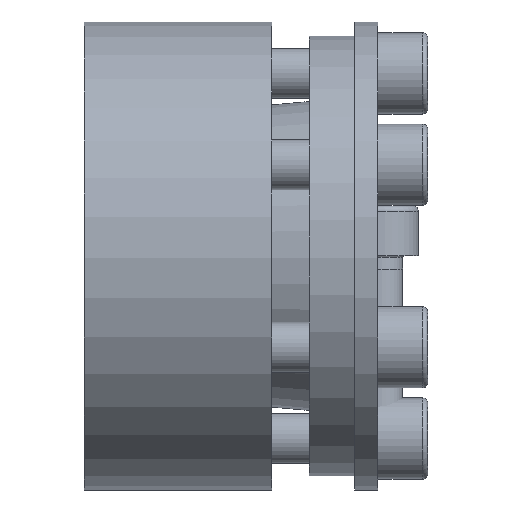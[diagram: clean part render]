
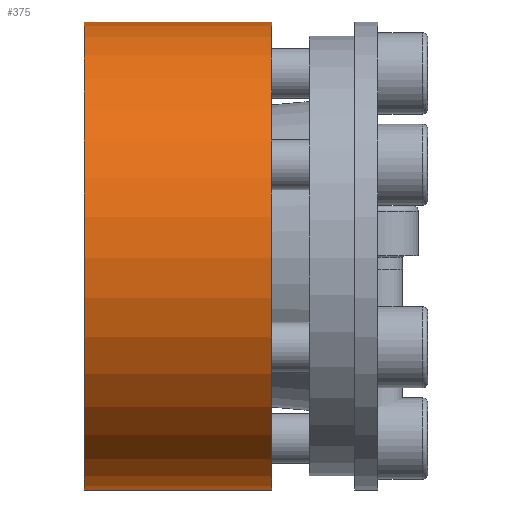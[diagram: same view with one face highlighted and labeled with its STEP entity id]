
A CAD part, left-side view. The second image highlights one B-rep face of the part: STEP entity #375.
In plain terms, the highlighted cylindrical face has radius 37.5 mm (diameter 75 mm), a partial arc.
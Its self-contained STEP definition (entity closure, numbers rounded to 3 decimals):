
#375 = ADVANCED_FACE( '', ( #599 ), #600, .T. );
#599 = FACE_OUTER_BOUND( '', #747, .T. );
#600 = CYLINDRICAL_SURFACE( '', #748, 37.5 );
#747 = EDGE_LOOP( '', ( #977, #978, #979, #980 ) );
#748 = AXIS2_PLACEMENT_3D( '', #981, #982, #983 );
#977 = ORIENTED_EDGE( '', *, *, #1254, .F. );
#978 = ORIENTED_EDGE( '', *, *, #1261, .T. );
#979 = ORIENTED_EDGE( '', *, *, #1266, .T. );
#980 = ORIENTED_EDGE( '', *, *, #1234, .T. );
#981 = CARTESIAN_POINT( '', ( 0., -60., 0. ) );
#982 = DIRECTION( '', ( 0., 1., 0. ) );
#983 = DIRECTION( '', ( 0., 0., -1. ) );
#1234 = EDGE_CURVE( '', #1371, #1369, #1372, .T. );
#1254 = EDGE_CURVE( '', #1406, #1369, #1408, .T. );
#1261 = EDGE_CURVE( '', #1406, #1419, #1421, .F. );
#1266 = EDGE_CURVE( '', #1419, #1371, #1429, .T. );
#1369 = VERTEX_POINT( '', #1491 );
#1371 = VERTEX_POINT( '', #1494 );
#1372 = LINE( '', #1495, #1496 );
#1406 = VERTEX_POINT( '', #1536 );
#1408 = CIRCLE( '', #1539, 37.5 );
#1419 = VERTEX_POINT( '', #1554 );
#1421 = LINE( '', #1557, #1558 );
#1429 = CIRCLE( '', #1569, 37.5 );
#1491 = CARTESIAN_POINT( '', ( 19.396, 17., 32.094 ) );
#1494 = CARTESIAN_POINT( '', ( 19.396, 47., 32.094 ) );
#1495 = CARTESIAN_POINT( '', ( 19.396, -60., 32.094 ) );
#1496 = VECTOR( '', #1611, 1000. );
#1536 = CARTESIAN_POINT( '', ( 18.097, 17., 32.844 ) );
#1539 = AXIS2_PLACEMENT_3D( '', #1658, #1659, #1660 );
#1554 = CARTESIAN_POINT( '', ( 18.097, 47., 32.844 ) );
#1557 = CARTESIAN_POINT( '', ( 18.097, -60., 32.844 ) );
#1558 = VECTOR( '', #1672, 1000. );
#1569 = AXIS2_PLACEMENT_3D( '', #1679, #1680, #1681 );
#1611 = DIRECTION( '', ( 0., -1., 0. ) );
#1658 = CARTESIAN_POINT( '', ( 0., 17., 0. ) );
#1659 = DIRECTION( '', ( 0., -1., 0. ) );
#1660 = DIRECTION( '', ( 0., 0., -1. ) );
#1672 = DIRECTION( '', ( 0., -1., 0. ) );
#1679 = CARTESIAN_POINT( '', ( 0., 47., 0. ) );
#1680 = DIRECTION( '', ( 0., -1., 0. ) );
#1681 = DIRECTION( '', ( 0., 0., -1. ) );
